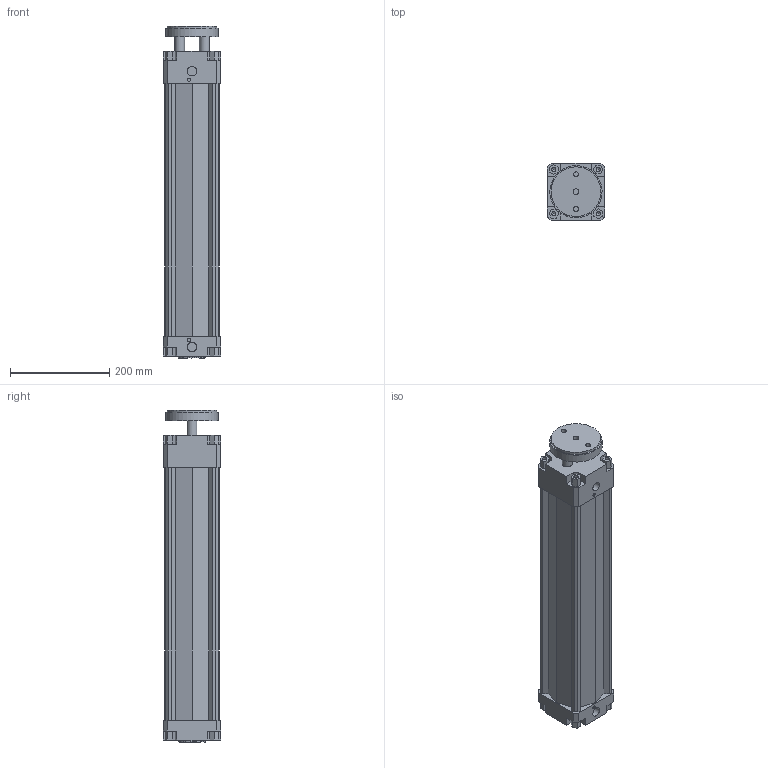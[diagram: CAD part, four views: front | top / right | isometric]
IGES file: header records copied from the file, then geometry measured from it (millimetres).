
Global section: file name: 134#_100_0450_01; native system: Autodesk Inventor 2014; preprocessor: unknown; author: A. Manieri; date: 20161006.165349; units: millimetre
Bounding box: 115 x 115 x 668 mm (x, y, z)
Volume: 3506783.8 mm3; surface area: 632195.5 mm2
Topology: 2 solids, 2 shells, 180 faces, 491 edges, 335 vertices
Faces by surface type: bspline 180
